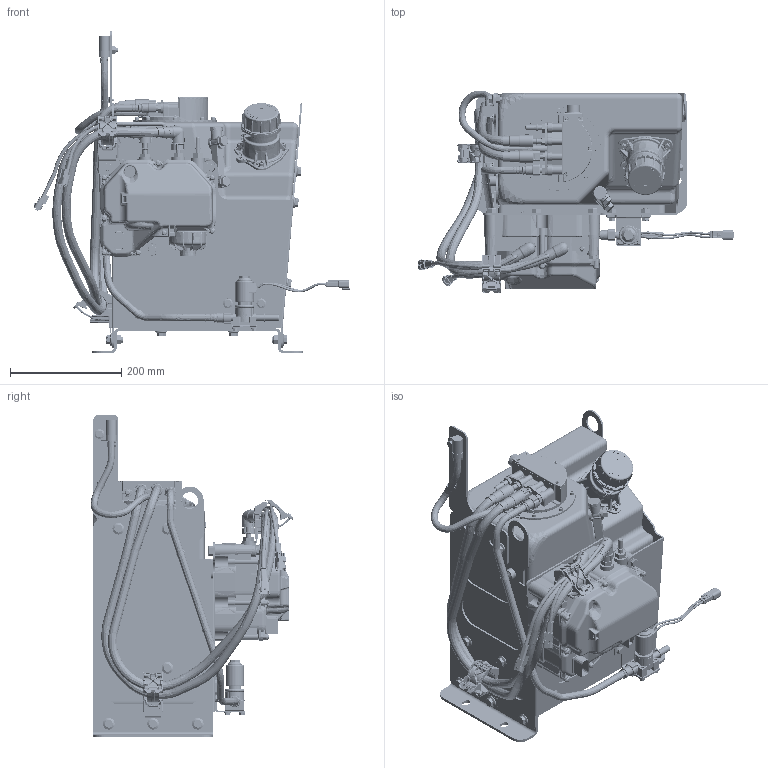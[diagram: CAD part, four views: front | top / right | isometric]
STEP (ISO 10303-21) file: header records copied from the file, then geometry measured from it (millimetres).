
FILE_DESCRIPTION(('CATIA V6 STEP'),'2;1');
FILE_NAME('C:\Users\i0213432\Desktop\STD 3D\D34\TANK,UREA;DM03_STANDARD_15L.stp','2019-09-04T11:16:41+00:00',('none'),('none'),'3DEXPERIENCE Platform3DEXPERIENCE R2014x HotFix 24','3DEXPERIENCE Platform STEP AP203','none');
FILE_SCHEMA(('CONFIG_CONTROL_DESIGN'));
Bounding box: 568.87 x 364.25 x 580 mm (x, y, z)
Volume: 27517562 mm3; surface area: 1852973.2 mm2
Topology: 71 solids, 103 shells, 18667 faces, 48078 edges, 29423 vertices
Faces by surface type: plane 5654, cylinder 5074, bspline 4855, revolution 1005, cone 791, torus 747, sphere 413, extrusion 128
Entity records: 728548 total; most frequent: CARTESIAN_POINT 348868, ORIENTED_EDGE 95102, DIRECTION 52285, EDGE_CURVE 47551, VERTEX_POINT 29418, AXIS2_PLACEMENT_3D 20754, EDGE_LOOP 19361, VECTOR 18730
